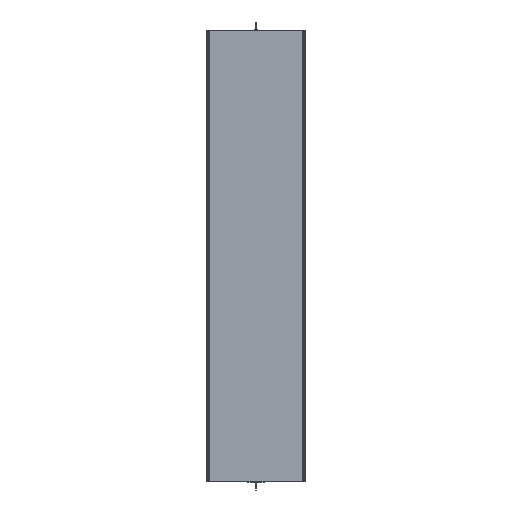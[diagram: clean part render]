
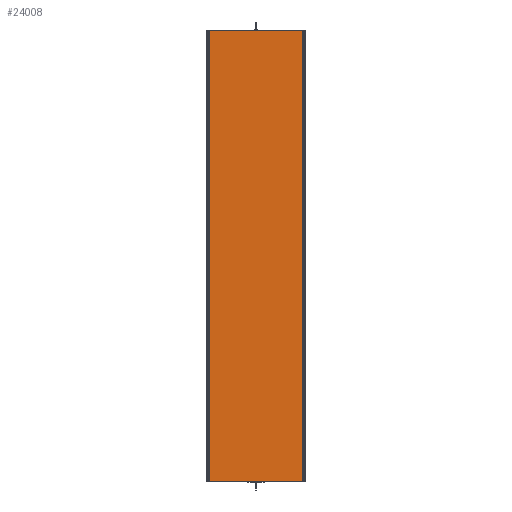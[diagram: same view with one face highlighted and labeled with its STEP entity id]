
A CAD part, front view. The second image highlights one B-rep face of the part: STEP entity #24008.
In plain terms, the highlighted planar face has unit normal (0, -1, 0).
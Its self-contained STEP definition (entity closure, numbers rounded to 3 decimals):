
#4630 = VERTEX_POINT('',#4631);
#4631 = CARTESIAN_POINT('',(6.52,0.,
    18.806));
#4637 = EDGE_CURVE('',#4638,#4630,#4640,.T.);
#4638 = VERTEX_POINT('',#4639);
#4639 = CARTESIAN_POINT('',(6.52,0.,1017.606));
#4640 = LINE('',#4641,#4642);
#4641 = CARTESIAN_POINT('',(6.52,0.,1017.606));
#4642 = VECTOR('',#4643,1.);
#4643 = DIRECTION('',(0.,0.,-1.));
#8082 = VERTEX_POINT('',#8083);
#8083 = CARTESIAN_POINT('',(213.48,0.,
    18.806));
#8242 = VERTEX_POINT('',#8243);
#8243 = CARTESIAN_POINT('',(213.48,0.,1017.606));
#24008 = ADVANCED_FACE('',(#24009),#24030,.T.);
#24009 = FACE_BOUND('',#24010,.T.);
#24010 = EDGE_LOOP('',(#24011,#24017,#24018,#24024));
#24011 = ORIENTED_EDGE('',*,*,#24012,.T.);
#24012 = EDGE_CURVE('',#8242,#4638,#24013,.T.);
#24013 = LINE('',#24014,#24015);
#24014 = CARTESIAN_POINT('',(213.48,0.,1017.606));
#24015 = VECTOR('',#24016,1.);
#24016 = DIRECTION('',(-1.,0.,0.));
#24017 = ORIENTED_EDGE('',*,*,#4637,.T.);
#24018 = ORIENTED_EDGE('',*,*,#24019,.T.);
#24019 = EDGE_CURVE('',#4630,#8082,#24020,.T.);
#24020 = LINE('',#24021,#24022);
#24021 = CARTESIAN_POINT('',(6.52,0.,
    18.806));
#24022 = VECTOR('',#24023,1.);
#24023 = DIRECTION('',(1.,0.,0.));
#24024 = ORIENTED_EDGE('',*,*,#24025,.T.);
#24025 = EDGE_CURVE('',#8082,#8242,#24026,.T.);
#24026 = LINE('',#24027,#24028);
#24027 = CARTESIAN_POINT('',(213.48,0.,
    18.806));
#24028 = VECTOR('',#24029,1.);
#24029 = DIRECTION('',(0.,0.,1.));
#24030 = PLANE('',#24031);
#24031 = AXIS2_PLACEMENT_3D('',#24032,#24033,#24034);
#24032 = CARTESIAN_POINT('',(110.,0.,
    518.206));
#24033 = DIRECTION('',(-0.,-1.,0.));
#24034 = DIRECTION('',(0.,0.,-1.));
